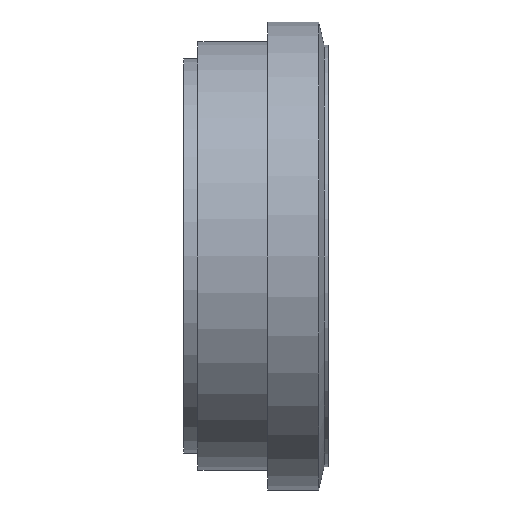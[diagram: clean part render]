
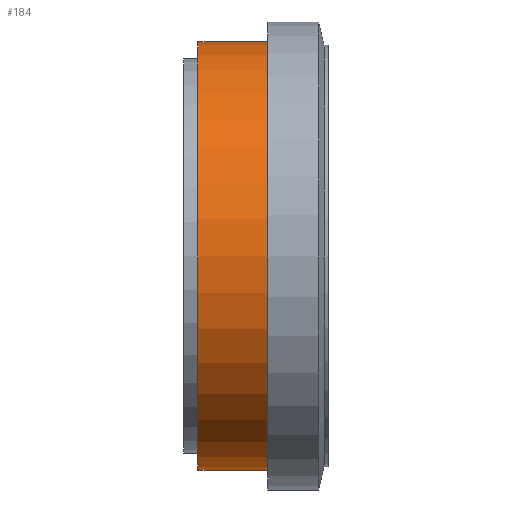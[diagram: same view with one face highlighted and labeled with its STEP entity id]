
A CAD part, front view. The second image highlights one B-rep face of the part: STEP entity #184.
In plain terms, the highlighted cylindrical face has radius 60 mm (diameter 120 mm), a full revolution.
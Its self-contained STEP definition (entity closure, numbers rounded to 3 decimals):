
#16=CYLINDRICAL_SURFACE($,#206,60.);
#25=FACE_BOUND($,#61,.T.);
#45=FACE_OUTER_BOUND($,#60,.T.);
#60=EDGE_LOOP($,(#145));
#61=EDGE_LOOP($,(#146));
#92=CIRCLE($,#204,60.);
#94=CIRCLE($,#207,60.);
#109=VERTEX_POINT($,#309);
#111=VERTEX_POINT($,#314);
#126=EDGE_CURVE($,#109,#109,#92,.T.);
#128=EDGE_CURVE($,#111,#111,#94,.T.);
#145=ORIENTED_EDGE($,*,*,#128,.F.);
#146=ORIENTED_EDGE($,*,*,#126,.T.);
#184=ADVANCED_FACE($,(#45,#25),#16,.T.);
#204=AXIS2_PLACEMENT_3D($,#310,#241,#242);
#206=AXIS2_PLACEMENT_3D($,#313,#245,#246);
#207=AXIS2_PLACEMENT_3D($,#315,#247,#248);
#241=DIRECTION('center_axis',(1.,0.,0.));
#242=DIRECTION('ref_axis',(0.,1.,0.));
#245=DIRECTION('center_axis',(1.,0.,0.));
#246=DIRECTION('ref_axis',(0.,1.,0.));
#247=DIRECTION('center_axis',(1.,0.,0.));
#248=DIRECTION('ref_axis',(0.,1.,0.));
#309=CARTESIAN_POINT('',(4.,60.,0.));
#310=CARTESIAN_POINT('Origin',(4.,0.,0.));
#313=CARTESIAN_POINT('Origin',(13.75,0.,0.));
#314=CARTESIAN_POINT('',(23.5,60.,0.));
#315=CARTESIAN_POINT('Origin',(23.5,0.,0.));
